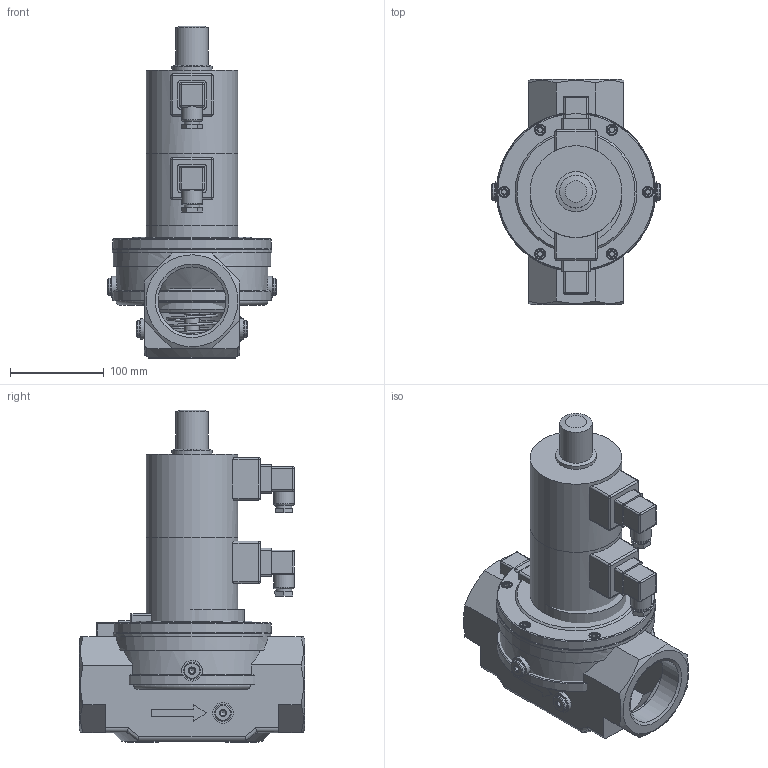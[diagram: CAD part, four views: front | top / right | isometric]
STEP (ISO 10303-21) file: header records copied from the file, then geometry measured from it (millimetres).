
FILE_DESCRIPTION( ( 'Unknown' ), '1' );
FILE_NAME( 'D:/Wyroby/Widoki gabarytowe/Zawory ZED/ZED_65/ZED_65.stp', 'Unknown', ( 'Unknown' ), ( 'Unknown' ), 'XStep 1.0', 'Unknown', ' ' );
FILE_SCHEMA( ( 'CONFIG_CONTROL_DESIGN' ) );
Length unit declared in the file: millimetre
Products named in the file (60): Wa_053_01_02; Assem1; Wa_053_01_01z_korkami; Wa_150_01_00; Wa_150_01_02; Wa_150_01_01; Wa_150_01_01_001; Wa_148_01_01_002; Wa_053_01_02_001zaci從i黎y; Wa_053_01_02_003zaci從i黎a; Wa_053_01_02_002; Wa_053_01_01b.g._z.k; Wa_053_01_01_001gotowe; Wa_031_01_04_002got; Wa_031_01_04_001; Wa_150_01_02_001; Wa_148_01_02_002got.; Wa_031_01_00_006; Wa_053_01_00_001; Œ-008ImbusM6x16; Wa_031_01_00_012; Wa_031_01_00_010; T-026; K-006got.; Wa_148_01_00_008; Wa_148_01_00_007; Wa_150_01_00_002; Wa_031_01_00_003; Oring138x3彡i從i黎y; Wa_053_01_00_002彡i從i黎a42,5; Wa_053_01_09; Wa_148_01_00_010; Wa_150_01_00_001; Oring32x2,5彡i從.; Wa_148_01_00_002; Wa_148_01_00_003; Wa_148_01_00_009; Wa_145_01_00_009; Oring6x2彡i從.; Oring12x2彡i從i黎y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
Bounding box: 180 x 240 x 354 mm (x, y, z)
Volume: 8238037.9 mm3; surface area: 2021315.2 mm2
Topology: 171 solids, 183 shells, 3051 faces, 6712 edges, 4265 vertices
Faces by surface type: plane 1470, cylinder 866, cone 578, torus 76, sphere 42, bspline 19
Full cylindrical faces by diameter (mm): 2 x9, 2.1 x8, 2.5 x10, 4.8 x7, 4.917 x32, 6 x28, 6.1 x3, 6.5 x15, 6.6 x18, 6.917 x6, 8 x11, 8.2 x15, 9 x4, 9.7 x15, 10 x21, 11 x21, 11.445 x16, 11.5 x3, 12.5 x9, 12.7 x6, 12.917 x6, 13 x12, 13.8 x12, 14 x6, 15.5 x9, 16 x6, 16.2 x3, 17 x4, 18 x24, 22 x20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
Entity records: 29035 total; most frequent: CARTESIAN_POINT 7644, DIRECTION 4082, ORIENTED_EDGE 3066, AXIS2_PLACEMENT_3D 1743, EDGE_CURVE 1533, EDGE_LOOP 1496, VERTEX_POINT 1183, FACE_OUTER_BOUND 1163
